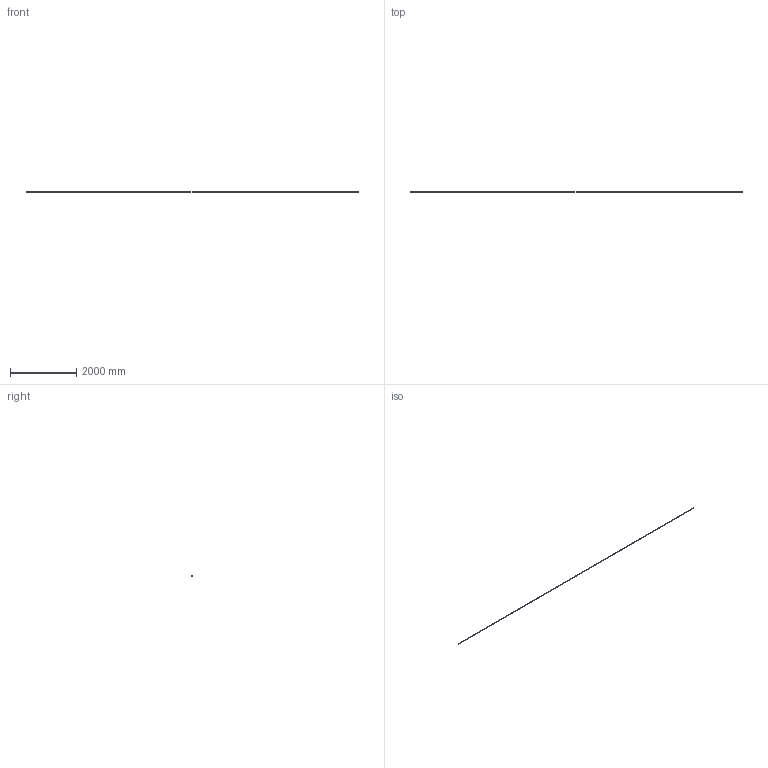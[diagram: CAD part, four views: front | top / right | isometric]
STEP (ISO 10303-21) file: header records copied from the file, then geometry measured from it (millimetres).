
FILE_DESCRIPTION(('FreeCAD Model'),'2;1');
FILE_NAME('Open CASCADE Shape Model','2026-10-12T23:06:14',('Author'),( ''),'Open CASCADE STEP processor 7.8','FreeCAD','Unknown');
FILE_SCHEMA(('AUTOMOTIVE_DESIGN { 1 0 10303 214 1 1 1 1 }'));
Length unit declared in the file: millimetre
Products named in the file (4): noodles; Rope_spaghetti_10m; EndCap_Start; EndCap_End
Assembly tree (3 placements, depth 2):
  noodles
    Rope_spaghetti_10m
    EndCap_Start
    EndCap_End
Bounding box: 10056 x 22.53 x 22.88 mm (x, y, z)
Volume: 3824351.6 mm3; surface area: 697580.5 mm2
Topology: 3 solids, 3 shells, 9 faces, 9 edges, 6 vertices
Faces by surface type: plane 6, cylinder 3
Full cylindrical faces by diameter (mm): 22 x1, 22.88 x2
Entity records: 229 total; most frequent: DIRECTION 41, CARTESIAN_POINT 28, AXIS2_PLACEMENT_3D 19, ORIENTED_EDGE 18, ADVANCED_FACE 9, FACE_BOUND 9, EDGE_LOOP 9, EDGE_CURVE 9
